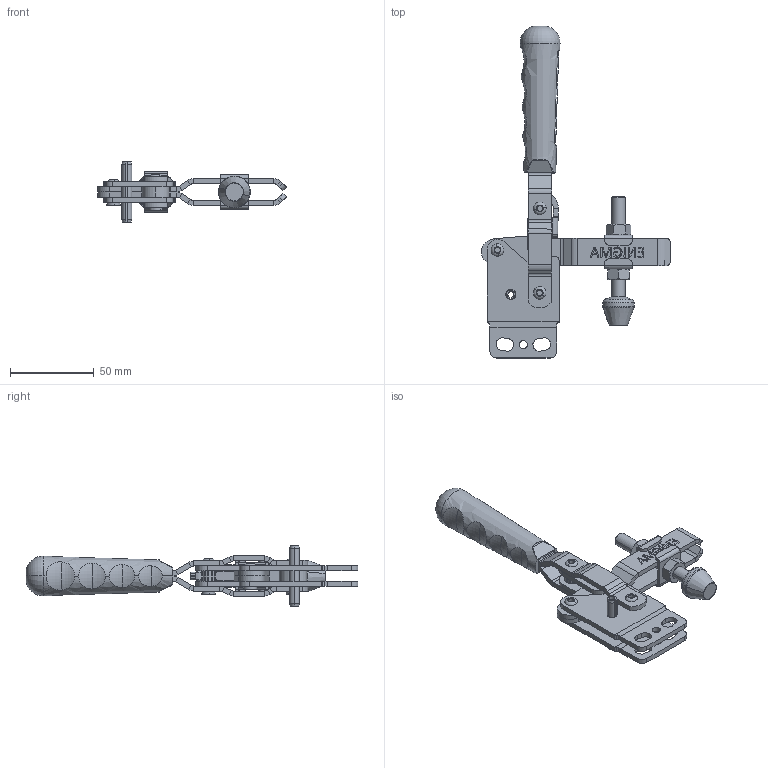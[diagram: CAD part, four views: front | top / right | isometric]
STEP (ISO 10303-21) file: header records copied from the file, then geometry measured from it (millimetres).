
FILE_DESCRIPTION (( 'STEP AP214' ), '1' );
FILE_NAME ('1103-D.STEP', '2022-05-31T12:44:18', ( '' ), ( '' ), 'SwSTEP 2.0', 'SolidWorks 2020', '' );
FILE_SCHEMA (( 'AUTOMOTIVE_DESIGN' ));
Length unit declared in the file: millimetre
Products named in the file (19): Aynalama1103 BASKI KOLU_2022; 1103_DESTEK_YÜZÜÐÜ; Aynalama1103 HAREKET KOLU_2022; M8 Baský; 1103_Y_FN; 8x5x6_BURÇ; M8 Somun; 1103 HAREKET KOLU_2022; 5x22_PERﾇﾝN; M8_BASKI_GRUBU^1103_Y_MONTAJ_REV01; 1103-D; 1103 MAFSAL_2022; 8x5x12_BURÇ; Aynalama1103_Y_FN; 5x17_PERﾇﾝN; 6x36_YARIKLI_P嵱; 1103 BASKI KOLU_2022; M8 Aský; C90_Yeni_Tutamak
Assembly tree (24 placements, depth 3):
  1103-D
    1103 BASKI KOLU_2022
    1103 HAREKET KOLU_2022
    1103 MAFSAL_2022
    8x5x12_BURÇ  x2
    8x5x6_BURÇ  x2
    5x22_PERﾇﾝN  x2
    5x17_PERﾇﾝN  x2
    6x36_YARIKLI_P嵱
    1103_DESTEK_YÜZÜÐÜ
    1103_Y_FN
    Aynalama1103_Y_FN
    Aynalama1103 BASKI KOLU_2022
    Aynalama1103 HAREKET KOLU_2022
    M8_BASKI_GRUBU^1103_Y_MONTAJ_REV01
      M8 Aský  x2
      M8 Baský
      M8 Somun  x2
    C90_Yeni_Tutamak
Bounding box: 113.05 x 198.79 x 36 mm (x, y, z)
Volume: 77621.3 mm3; surface area: 56544.2 mm2
Topology: 23 solids, 23 shells, 1399 faces, 3493 edges, 2213 vertices
Faces by surface type: plane 868, cylinder 295, bspline 130, cone 66, torus 36, sphere 4
Entity records: 41038 total; most frequent: CARTESIAN_POINT 13558, ORIENTED_EDGE 5436, DIRECTION 4946, EDGE_CURVE 2718, VECTOR 1748, LINE 1748, VERTEX_POINT 1719, AXIS2_PLACEMENT_3D 1599
